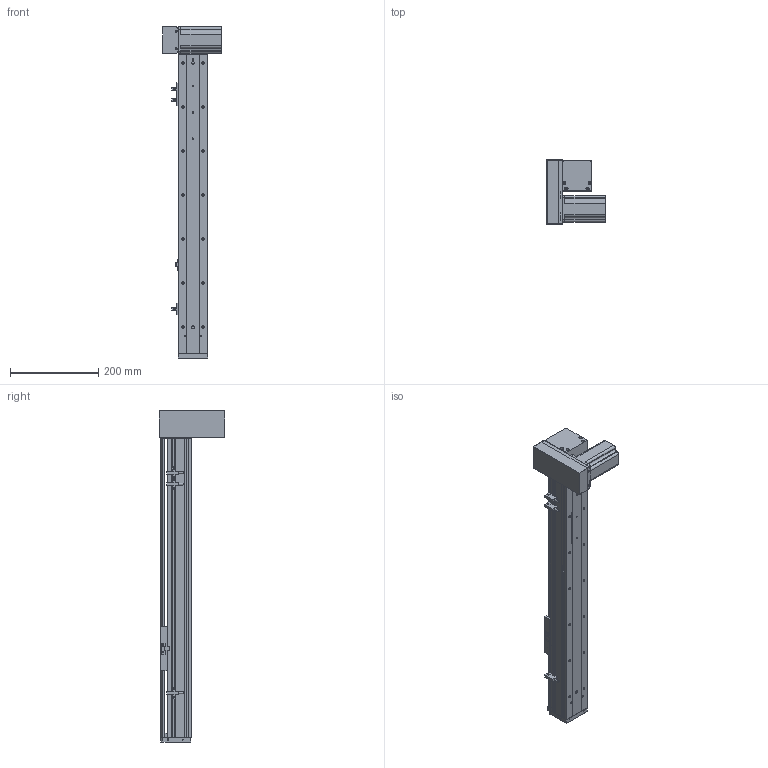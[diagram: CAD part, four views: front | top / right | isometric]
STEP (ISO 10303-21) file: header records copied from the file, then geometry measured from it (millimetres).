
FILE_DESCRIPTION (( 'STEP AP203' ), '1' );
FILE_NAME ('ML68-S500-DR.STEP', '2016-08-05T00:41:34', ( '' ), ( '' ), 'SwSTEP 2.0', 'SolidWorks 2014', '' );
FILE_SCHEMA (( 'CONFIG_CONTROL_DESIGN' ));
Length unit declared in the file: millimetre
Products named in the file (12): QS68酘衵殏萇儂啣; ML68傷啣; 三协电机MH201N2_預設; 葩璃 ML68菁釱^ML68-S500-DR; ML68-S500-DR; 換覜ん; 60換覜結え; QS68左右折电机板罩子; ML68奻裔^ML68-S500-DR; ML68滅鳥啣盓傅輸; ML68雄赽釱; ML68-BL傷啣
Assembly tree (13 placements, depth 2):
  ML68-S500-DR
    葩璃 ML68菁釱^ML68-S500-DR
    ML68奻裔^ML68-S500-DR
    ML68傷啣
    ML68-BL傷啣
    60換覜結え
    換覜ん  x3
    三协电机MH201N2_預設
    ML68雄赽釱
    QS68酘衵殏萇儂啣
    QS68左右折电机板罩子
    ML68滅鳥啣盓傅輸
Bounding box: 133.5 x 148 x 754 mm (x, y, z)
Volume: 1544226.8 mm3; surface area: 562886.5 mm2
Topology: 13 solids, 13 shells, 905 faces, 2476 edges, 1569 vertices
Faces by surface type: cylinder 412, plane 397, cone 96
Entity records: 28640 total; most frequent: CARTESIAN_POINT 5466, DIRECTION 4690, ORIENTED_EDGE 4452, EDGE_CURVE 2226, AXIS2_PLACEMENT_3D 1693, VERTEX_POINT 1457, LINE 1304, VECTOR 1304
